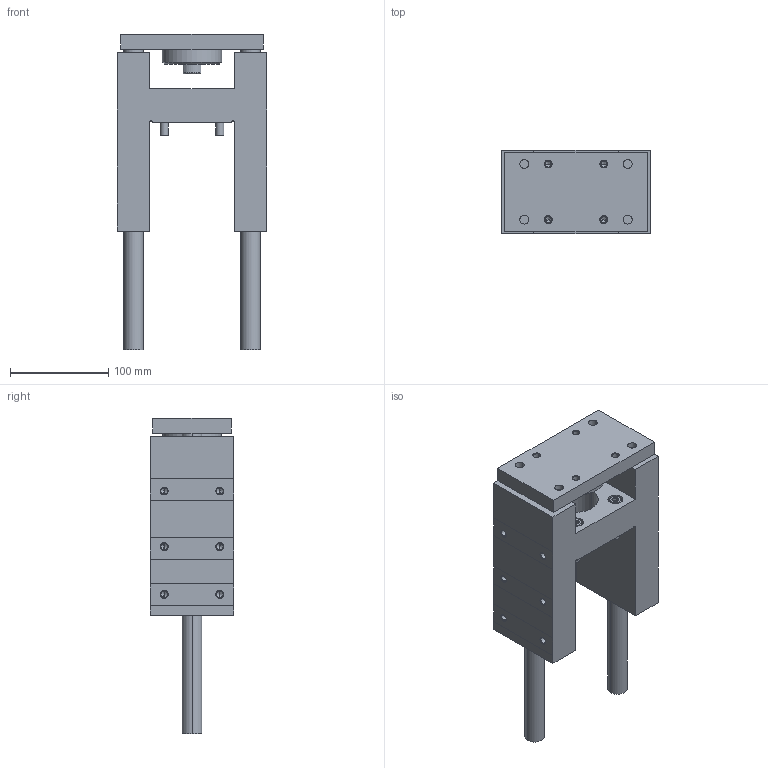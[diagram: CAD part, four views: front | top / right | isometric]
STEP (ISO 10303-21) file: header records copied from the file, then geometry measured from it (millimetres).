
FILE_DESCRIPTION (( 'STEP AP203' ), '1' );
FILE_NAME ('GB63-100.STEP', '2020-04-24T13:20:46', ( '' ), ( '' ), 'SwSTEP 2.0', 'SolidWorks 2019', '' );
FILE_SCHEMA (( 'CONFIG_CONTROL_DESIGN' ));
Length unit declared in the file: millimetre
Products named in the file (1): GB63-100
Bounding box: 152 x 85 x 320 mm (x, y, z)
Volume: 1487710 mm3; surface area: 226771.7 mm2
Topology: 6 solids, 6 shells, 363 faces, 814 edges, 462 vertices
Faces by surface type: cone 146, plane 115, cylinder 102
Entity records: 10453 total; most frequent: CARTESIAN_POINT 2284, DIRECTION 1812, ORIENTED_EDGE 1556, EDGE_CURVE 778, AXIS2_PLACEMENT_3D 702, VERTEX_POINT 462, EDGE_LOOP 428, LINE 408
